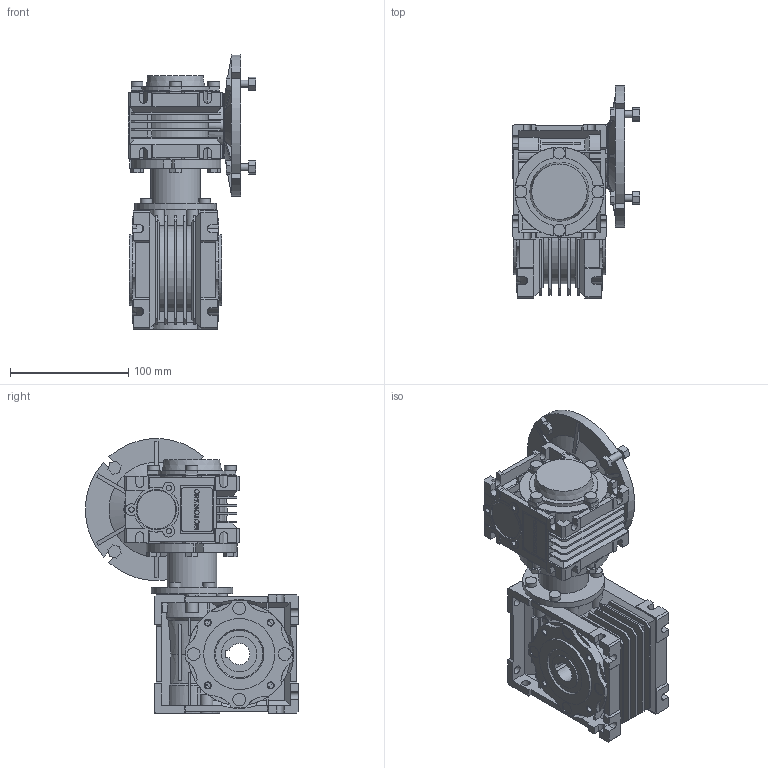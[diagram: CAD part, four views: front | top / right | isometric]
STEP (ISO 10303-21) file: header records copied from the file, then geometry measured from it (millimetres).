
FILE_DESCRIPTION(/* description */ ('STEP AP214'),/* implementation_level */ '2;1');
FILE_NAME(/* name */ 'NMRV-NMRV030-040100 (10x10)11118NO11NO00NO---(--------)',/* time_stamp */ '2024-10-22T08:47:36+02:00',/* author */ ('License CC BY-ND 4.0'),/* organization */ ('CADENAS'),/* preprocessor_version */ 'ST-DEVELOPER v19.3',/* originating_system */ 'PARTsolutions',/* authorisation */ ' ');
FILE_SCHEMA (('AUTOMOTIVE_DESIGN {1 0 10303 214 3 1 1}'));
Length unit declared in the file: millimetre
Products named in the file (13): NMRV-NMRV030-040100 (10x10)11118NO11NO00NO---(--------); 030-040100 (10x10)1114118No11No00NO---(--------)-d; 030-04050 (5x10)11118No11No00NO---d1; 030-04050 (5x10)11118No11No00T0561-d1; Gear unit 40; 040-18 (78)alc-n; VB 040-11 (11); Gear unit 30; 030-14 (63)alc-n; FT 030-040; Hollow shaft 30; VB 030-09 (9); 30-56 B5
Assembly tree (13 placements, depth 2):
  NMRV-NMRV030-040100 (10x10)11118NO11NO00NO---(--------)
    030-040100 (10x10)1114118No11No00NO---(--------)-d
    030-04050 (5x10)11118No11No00NO---d1
    030-04050 (5x10)11118No11No00T0561-d1  x2
    Gear unit 40
    040-18 (78)alc-n
    VB 040-11 (11)
    Gear unit 30
    030-14 (63)alc-n
    FT 030-040
    Hollow shaft 30
    VB 030-09 (9)
    30-56 B5
Bounding box: 108 x 179.8 x 231.8 mm (x, y, z)
Volume: 1135214.8 mm3; surface area: 296378.6 mm2
Topology: 9 solids, 16 shells, 1625 faces, 4373 edges, 2849 vertices
Faces by surface type: plane 1209, cylinder 330, cone 84, torus 2
Full cylindrical faces by diameter (mm): 3.545 x3, 4.65 x3, 4.917 x16, 5.55 x3, 6 x8, 7 x6, 10 x12, 10.8 x4, 16 x1, 19 x2, 23 x2, 24.8 x2, 28 x1, 30 x4, 36 x1, 37 x1, 38 x1, 40 x1, 42 x1, 47 x1, 55 x3, 60 x2, 69 x1, 75 x2, 78.5 x1, 80 x1
Entity records: 61271 total; most frequent: CARTESIAN_POINT 9335, ORIENTED_EDGE 8436, DIRECTION 8258, EDGE_CURVE 4218, LINE 3064, VECTOR 3064, VERTEX_POINT 2824, AXIS2_PLACEMENT_3D 2597
